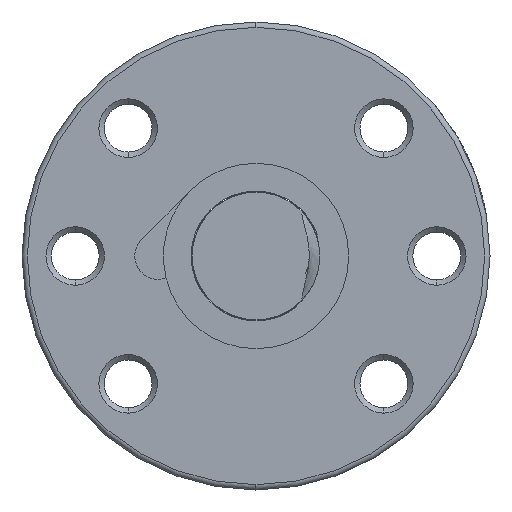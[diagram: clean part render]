
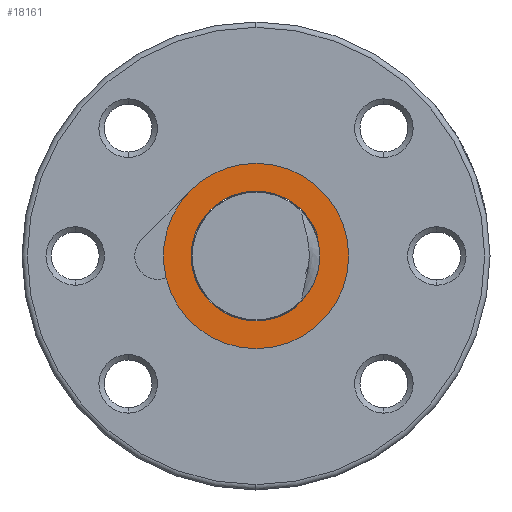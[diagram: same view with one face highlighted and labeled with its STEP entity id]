
A CAD part, left-side view. The second image highlights one B-rep face of the part: STEP entity #18161.
In plain terms, the highlighted planar face has unit normal (-1, 0, 0).
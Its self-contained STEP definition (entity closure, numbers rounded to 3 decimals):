
#2676 = CARTESIAN_POINT ( 'NONE',  ( -44.8, 0., 8.71 ) ) ;
#2677 = CARTESIAN_POINT ( 'NONE',  ( -44.8, 0., -8.71 ) ) ;
#2678 = DIRECTION ( 'NONE',  ( 0., 0., 1. ) ) ;
#2679 = DIRECTION ( 'NONE',  ( -1., 0., 0. ) ) ;
#2680 = AXIS2_PLACEMENT_3D ( 'NONE', #2687, #2679, #2678 ) ;
#2681 = CIRCLE ( 'NONE', #2680, 8.71 ) ;
#2687 = CARTESIAN_POINT ( 'NONE',  ( -44.8, 0., 0. ) ) ;
#2732 = CARTESIAN_POINT ( 'NONE',  ( -44.8, 0., 6.1 ) ) ;
#2733 = DIRECTION ( 'NONE',  ( 0., 0., 1. ) ) ;
#2734 = DIRECTION ( 'NONE',  ( -1., 0., 0. ) ) ;
#2735 = AXIS2_PLACEMENT_3D ( 'NONE', #2742, #2734, #2733 ) ;
#2736 = CIRCLE ( 'NONE', #2735, 6.1 ) ;
#2740 = CARTESIAN_POINT ( 'NONE',  ( -44.8, -4.877, 3.664 ) ) ;
#2742 = CARTESIAN_POINT ( 'NONE',  ( -44.8, 0., 0. ) ) ;
#2943 = DIRECTION ( 'NONE',  ( 0., 0., 1. ) ) ;
#2944 = DIRECTION ( 'NONE',  ( -1., 0., 0. ) ) ;
#2945 = CARTESIAN_POINT ( 'NONE',  ( -44.8, 0., 0. ) ) ;
#2946 = AXIS2_PLACEMENT_3D ( 'NONE', #2945, #2944, #2943 ) ;
#2947 = CIRCLE ( 'NONE', #2946, 6.1 ) ;
#2948 = CARTESIAN_POINT ( 'NONE',  ( -44.8, 0., -6.1 ) ) ;
#2965 = CARTESIAN_POINT ( 'NONE',  ( -44.8, -3.813, -4.762 ) ) ;
#3039 = CARTESIAN_POINT ( 'NONE',  ( -44.8, 0., 0. ) ) ;
#3097 = CARTESIAN_POINT ( 'NONE',  ( -44.8, 6.165, 6.152 ) ) ;
#3098 = DIRECTION ( 'NONE',  ( 0., 0., 1. ) ) ;
#3099 = DIRECTION ( 'NONE',  ( -1., 0., 0. ) ) ;
#3100 = AXIS2_PLACEMENT_3D ( 'NONE', #3039, #3099, #3098 ) ;
#3101 = CIRCLE ( 'NONE', #3100, 8.71 ) ;
#3180 = CARTESIAN_POINT ( 'NONE',  ( -44.8, 8.463, -2.059 ) ) ;
#3181 = DIRECTION ( 'NONE',  ( 0., 0., 1. ) ) ;
#3182 = DIRECTION ( 'NONE',  ( -1., 0., 0. ) ) ;
#3183 = AXIS2_PLACEMENT_3D ( 'NONE', #3189, #3182, #3181 ) ;
#3184 = CIRCLE ( 'NONE', #3183, 8.71 ) ;
#3189 = CARTESIAN_POINT ( 'NONE',  ( -44.8, 0., 0. ) ) ;
#3257 = B_SPLINE_CURVE_WITH_KNOTS ( 'NONE', 3,
 ( #3319, #3318, #3317, #3316, #3315, #3314, #3313, #3312, #3311, #3310, #3309, #3308, #3307, #3306, #3305, #3304, #3303, #3302, #3301, #3300, #3299, #3298, #3297, #3296, #3295, #3294 ),
 .UNSPECIFIED., .F., .F.,
 ( 4, 2, 2, 2, 2, 2, 2, 2, 2, 2, 2, 2, 4 ),
 ( 0.012, 0.012, 0.012, 0.013, 0.014, 0.015, 0.016, 0.017, 0.018, 0.019, 0.02, 0.02, 0.021 ),
 .UNSPECIFIED. ) ;
#3258 = DIRECTION ( 'NONE',  ( 0., 0., 1. ) ) ;
#3259 = DIRECTION ( 'NONE',  ( -1., 0., 0. ) ) ;
#3260 = CARTESIAN_POINT ( 'NONE',  ( -44.8, 0., 6.1 ) ) ;
#3261 = AXIS2_PLACEMENT_3D ( 'NONE', #3260, #3259, #3258 ) ;
#3262 = PLANE ( 'NONE',  #3261 ) ;
#3263 = FACE_OUTER_BOUND ( 'NONE', #18168, .T. ) ;
#3269 = FACE_BOUND ( 'NONE', #18162, .T. ) ;
#3294 = CARTESIAN_POINT ( 'NONE',  ( -44.8, -4.877, 3.664 ) ) ;
#3295 = CARTESIAN_POINT ( 'NONE',  ( -44.8, -4.824, 3.59 ) ) ;
#3296 = CARTESIAN_POINT ( 'NONE',  ( -44.8, -4.8, 3.499 ) ) ;
#3297 = CARTESIAN_POINT ( 'NONE',  ( -44.8, -4.774, 3.32 ) ) ;
#3298 = CARTESIAN_POINT ( 'NONE',  ( -44.8, -4.773, 3.228 ) ) ;
#3299 = CARTESIAN_POINT ( 'NONE',  ( -44.8, -4.782, 2.957 ) ) ;
#3300 = CARTESIAN_POINT ( 'NONE',  ( -44.8, -4.805, 2.776 ) ) ;
#3301 = CARTESIAN_POINT ( 'NONE',  ( -44.8, -4.879, 2.236 ) ) ;
#3302 = CARTESIAN_POINT ( 'NONE',  ( -44.8, -4.935, 1.877 ) ) ;
#3303 = CARTESIAN_POINT ( 'NONE',  ( -44.8, -5.013, 1.156 ) ) ;
#3304 = CARTESIAN_POINT ( 'NONE',  ( -44.8, -5.036, 0.795 ) ) ;
#3305 = CARTESIAN_POINT ( 'NONE',  ( -44.8, -5.036, 0.071 ) ) ;
#3306 = CARTESIAN_POINT ( 'NONE',  ( -44.8, -5.013, -0.294 ) ) ;
#3307 = CARTESIAN_POINT ( 'NONE',  ( -44.8, -4.921, -1.008 ) ) ;
#3308 = CARTESIAN_POINT ( 'NONE',  ( -44.8, -4.852, -1.358 ) ) ;
#3309 = CARTESIAN_POINT ( 'NONE',  ( -44.8, -4.672, -2.049 ) ) ;
#3310 = CARTESIAN_POINT ( 'NONE',  ( -44.8, -4.56, -2.388 ) ) ;
#3311 = CARTESIAN_POINT ( 'NONE',  ( -44.8, -4.308, -3.059 ) ) ;
#3312 = CARTESIAN_POINT ( 'NONE',  ( -44.8, -4.164, -3.389 ) ) ;
#3313 = CARTESIAN_POINT ( 'NONE',  ( -44.8, -3.961, -3.889 ) ) ;
#3314 = CARTESIAN_POINT ( 'NONE',  ( -44.8, -3.895, -4.056 ) ) ;
#3315 = CARTESIAN_POINT ( 'NONE',  ( -44.8, -3.82, -4.315 ) ) ;
#3316 = CARTESIAN_POINT ( 'NONE',  ( -44.8, -3.798, -4.404 ) ) ;
#3317 = CARTESIAN_POINT ( 'NONE',  ( -44.8, -3.779, -4.583 ) ) ;
#3318 = CARTESIAN_POINT ( 'NONE',  ( -44.8, -3.779, -4.677 ) ) ;
#3319 = CARTESIAN_POINT ( 'NONE',  ( -44.8, -3.813, -4.762 ) ) ;
#3327 = DIRECTION ( 'NONE',  ( 0., 0., 1. ) ) ;
#3328 = DIRECTION ( 'NONE',  ( -1., 0., 0. ) ) ;
#3329 = CARTESIAN_POINT ( 'NONE',  ( -44.8, 0., 0. ) ) ;
#3330 = AXIS2_PLACEMENT_3D ( 'NONE', #3329, #3328, #3327 ) ;
#3331 = CIRCLE ( 'NONE', #3330, 8.71 ) ;
#3441 = DIRECTION ( 'NONE',  ( 0., 0., 1. ) ) ;
#3442 = DIRECTION ( 'NONE',  ( -1., 0., 0. ) ) ;
#3443 = CARTESIAN_POINT ( 'NONE',  ( -44.8, 0., 0. ) ) ;
#3444 = AXIS2_PLACEMENT_3D ( 'NONE', #3443, #3442, #3441 ) ;
#3450 = CIRCLE ( 'NONE', #3444, 6.1 ) ;
#17888 = EDGE_CURVE ( 'NONE', #17889, #17890, #2681, .T. ) ;
#17889 = VERTEX_POINT ( 'NONE', #2677 ) ;
#17890 = VERTEX_POINT ( 'NONE', #2676 ) ;
#17926 = VERTEX_POINT ( 'NONE', #2740 ) ;
#17928 = EDGE_CURVE ( 'NONE', #17926, #17929, #2736, .T. ) ;
#17929 = VERTEX_POINT ( 'NONE', #2732 ) ;
#17978 = VERTEX_POINT ( 'NONE', #2965 ) ;
#17981 = VERTEX_POINT ( 'NONE', #2948 ) ;
#17983 = EDGE_CURVE ( 'NONE', #17981, #17978, #2947, .T. ) ;
#18047 = EDGE_CURVE ( 'NONE', #17890, #18048, #3101, .T. ) ;
#18048 = VERTEX_POINT ( 'NONE', #3097 ) ;
#18107 = EDGE_CURVE ( 'NONE', #18108, #17889, #3184, .T. ) ;
#18108 = VERTEX_POINT ( 'NONE', #3180 ) ;
#18161 = ADVANCED_FACE ( 'NONE', ( #3269, #3263 ), #3262, .T. ) ;
#18162 = EDGE_LOOP ( 'NONE', ( #18163, #18164, #18166, #18167 ) ) ;
#18163 = ORIENTED_EDGE ( 'NONE', *, *, #17928, .F. ) ;
#18164 = ORIENTED_EDGE ( 'NONE', *, *, #18165, .F. ) ;
#18165 = EDGE_CURVE ( 'NONE', #17978, #17926, #3257, .T. ) ;
#18166 = ORIENTED_EDGE ( 'NONE', *, *, #17983, .F. ) ;
#18167 = ORIENTED_EDGE ( 'NONE', *, *, #18229, .F. ) ;
#18168 = EDGE_LOOP ( 'NONE', ( #18169, #18199, #18200, #18201 ) ) ;
#18169 = ORIENTED_EDGE ( 'NONE', *, *, #18198, .T. ) ;
#18198 = EDGE_CURVE ( 'NONE', #18048, #18108, #3331, .T. ) ;
#18199 = ORIENTED_EDGE ( 'NONE', *, *, #18107, .T. ) ;
#18200 = ORIENTED_EDGE ( 'NONE', *, *, #17888, .T. ) ;
#18201 = ORIENTED_EDGE ( 'NONE', *, *, #18047, .T. ) ;
#18229 = EDGE_CURVE ( 'NONE', #17929, #17981, #3450, .T. ) ;
